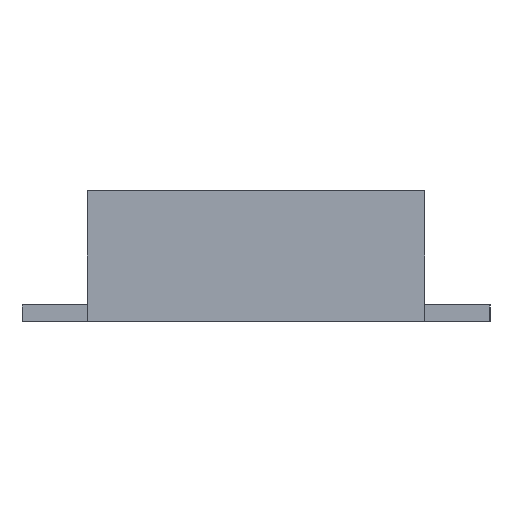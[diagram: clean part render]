
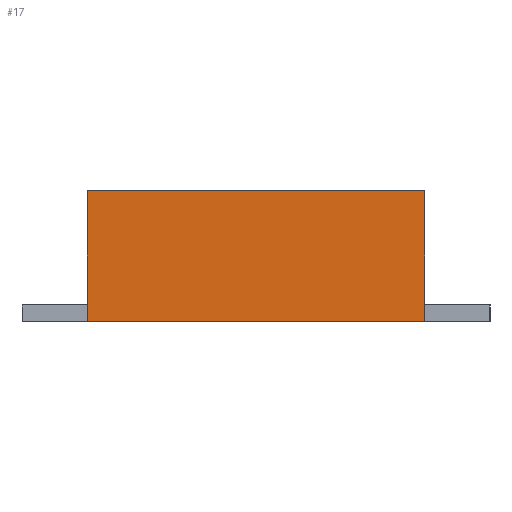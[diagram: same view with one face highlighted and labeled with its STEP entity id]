
A CAD part, left-side view. The second image highlights one B-rep face of the part: STEP entity #17.
In plain terms, the highlighted planar face has unit normal (-1, 0, 0).
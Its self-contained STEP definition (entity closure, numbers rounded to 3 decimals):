
#17 = ADVANCED_FACE('',(#18),#52,.F.);
#18 = FACE_BOUND('',#19,.F.);
#19 = EDGE_LOOP('',(#20,#30,#38,#46));
#20 = ORIENTED_EDGE('',*,*,#21,.F.);
#21 = EDGE_CURVE('',#22,#24,#26,.T.);
#22 = VERTEX_POINT('',#23);
#23 = CARTESIAN_POINT('',(-7.,-1.55,0.));
#24 = VERTEX_POINT('',#25);
#25 = CARTESIAN_POINT('',(-7.,-1.55,1.2));
#26 = LINE('',#27,#28);
#27 = CARTESIAN_POINT('',(-7.,-1.55,0.));
#28 = VECTOR('',#29,1.);
#29 = DIRECTION('',(0.,0.,1.));
#30 = ORIENTED_EDGE('',*,*,#31,.T.);
#31 = EDGE_CURVE('',#22,#32,#34,.T.);
#32 = VERTEX_POINT('',#33);
#33 = CARTESIAN_POINT('',(-7.,1.55,0.));
#34 = LINE('',#35,#36);
#35 = CARTESIAN_POINT('',(-7.,-1.55,0.));
#36 = VECTOR('',#37,1.);
#37 = DIRECTION('',(-0.,1.,0.));
#38 = ORIENTED_EDGE('',*,*,#39,.T.);
#39 = EDGE_CURVE('',#32,#40,#42,.T.);
#40 = VERTEX_POINT('',#41);
#41 = CARTESIAN_POINT('',(-7.,1.55,1.2));
#42 = LINE('',#43,#44);
#43 = CARTESIAN_POINT('',(-7.,1.55,0.));
#44 = VECTOR('',#45,1.);
#45 = DIRECTION('',(0.,0.,1.));
#46 = ORIENTED_EDGE('',*,*,#47,.F.);
#47 = EDGE_CURVE('',#24,#40,#48,.T.);
#48 = LINE('',#49,#50);
#49 = CARTESIAN_POINT('',(-7.,-1.55,1.2));
#50 = VECTOR('',#51,1.);
#51 = DIRECTION('',(-0.,1.,0.));
#52 = PLANE('',#53);
#53 = AXIS2_PLACEMENT_3D('',#54,#55,#56);
#54 = CARTESIAN_POINT('',(-7.,-1.55,0.));
#55 = DIRECTION('',(1.,0.,-0.));
#56 = DIRECTION('',(0.,0.,1.));
